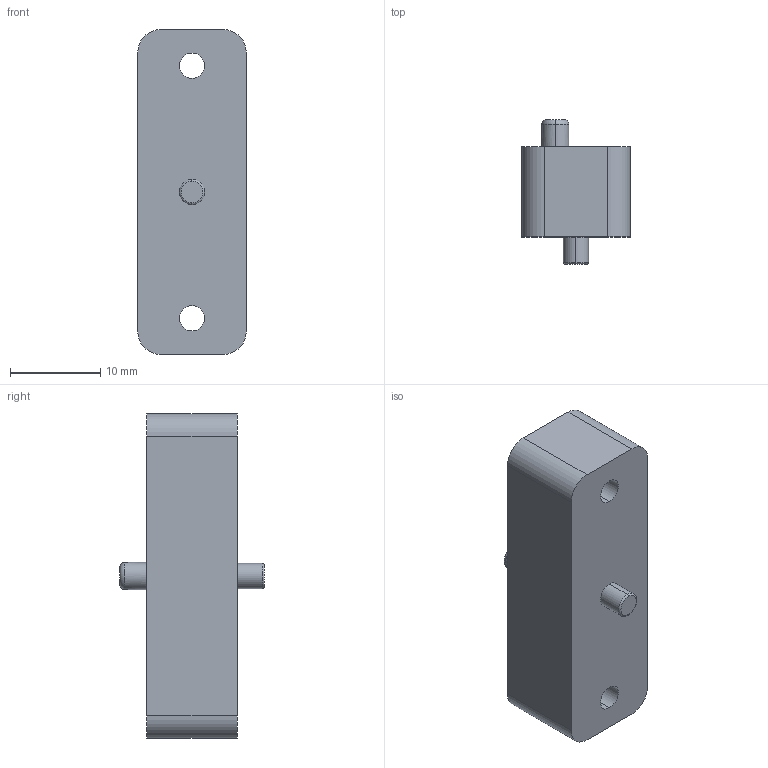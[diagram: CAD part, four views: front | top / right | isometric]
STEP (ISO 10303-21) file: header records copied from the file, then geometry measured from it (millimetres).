
FILE_DESCRIPTION (( 'STEP AP203' ), '1' );
FILE_NAME ('ヶ藷湖荂璃.STEP', '2026-07-08T11:41:08', ( '' ), ( '' ), 'SwSTEP 2.0', 'SolidWorks 2024', '' );
FILE_SCHEMA (( 'CONFIG_CONTROL_DESIGN' ));
Length unit declared in the file: millimetre
Products named in the file (1): 前门打印件
Bounding box: 12 x 16 x 36 mm (x, y, z)
Volume: 3478.9 mm3; surface area: 2604.1 mm2
Topology: 1 solids, 1 shells, 75 faces, 197 edges, 130 vertices
Faces by surface type: cylinder 41, plane 30, torus 4
Entity records: 2438 total; most frequent: DIRECTION 443, CARTESIAN_POINT 403, ORIENTED_EDGE 394, EDGE_CURVE 197, AXIS2_PLACEMENT_3D 170, VERTEX_POINT 130, LINE 103, VECTOR 103
